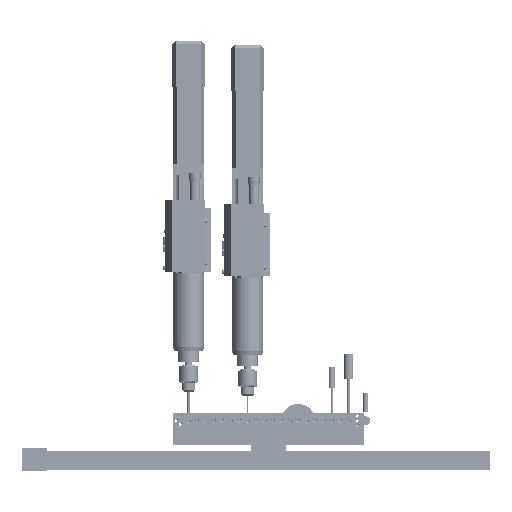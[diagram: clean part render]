
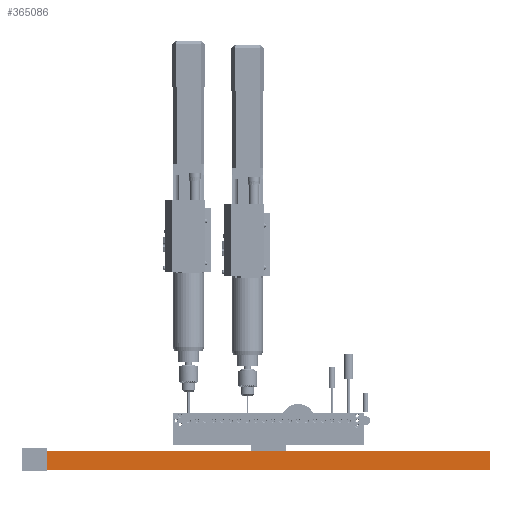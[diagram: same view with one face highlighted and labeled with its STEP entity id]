
A CAD part, front view. The second image highlights one B-rep face of the part: STEP entity #365086.
In plain terms, the highlighted planar face has unit normal (0, -1, 0).
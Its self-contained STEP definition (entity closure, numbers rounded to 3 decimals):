
#364466 = VERTEX_POINT('',#364467);
#364467 = CARTESIAN_POINT('',(619.,-126.6,
    -93.8));
#364476 = PLANE('',#364477);
#364477 = AXIS2_PLACEMENT_3D('',#364478,#364479,#364480);
#364478 = CARTESIAN_POINT('',(619.,-126.6,
    -139.8));
#364479 = DIRECTION('',(1.,0.,0.));
#364480 = DIRECTION('',(0.,0.,1.));
#364488 = PLANE('',#364489);
#364489 = AXIS2_PLACEMENT_3D('',#364490,#364491,#364492);
#364490 = CARTESIAN_POINT('',(619.,-126.6,
    -93.8));
#364491 = DIRECTION('',(0.,0.,1.));
#364492 = DIRECTION('',(1.,0.,0.));
#364500 = EDGE_CURVE('',#364501,#364466,#364503,.T.);
#364501 = VERTEX_POINT('',#364502);
#364502 = CARTESIAN_POINT('',(619.,-126.6,
    -139.8));
#364503 = SURFACE_CURVE('',#364504,(#364508,#364515),.PCURVE_S1.);
#364504 = LINE('',#364505,#364506);
#364505 = CARTESIAN_POINT('',(619.,-126.6,
    -139.8));
#364506 = VECTOR('',#364507,1.);
#364507 = DIRECTION('',(0.,0.,1.));
#364508 = PCURVE('',#364476,#364509);
#364509 = DEFINITIONAL_REPRESENTATION('',(#364510),#364514);
#364510 = LINE('',#364511,#364512);
#364511 = CARTESIAN_POINT('',(0.,0.));
#364512 = VECTOR('',#364513,1.);
#364513 = DIRECTION('',(1.,0.));
#364514 = ( GEOMETRIC_REPRESENTATION_CONTEXT(2) 
PARAMETRIC_REPRESENTATION_CONTEXT() REPRESENTATION_CONTEXT('2D SPACE',''
  ) );
#364515 = PCURVE('',#364516,#364521);
#364516 = PLANE('',#364517);
#364517 = AXIS2_PLACEMENT_3D('',#364518,#364519,#364520);
#364518 = CARTESIAN_POINT('',(619.,-126.6,
    -139.8));
#364519 = DIRECTION('',(0.,1.,0.));
#364520 = DIRECTION('',(0.,0.,1.));
#364521 = DEFINITIONAL_REPRESENTATION('',(#364522),#364526);
#364522 = LINE('',#364523,#364524);
#364523 = CARTESIAN_POINT('',(0.,0.));
#364524 = VECTOR('',#364525,1.);
#364525 = DIRECTION('',(1.,0.));
#364526 = ( GEOMETRIC_REPRESENTATION_CONTEXT(2) 
PARAMETRIC_REPRESENTATION_CONTEXT() REPRESENTATION_CONTEXT('2D SPACE',''
  ) );
#364544 = PLANE('',#364545);
#364545 = AXIS2_PLACEMENT_3D('',#364546,#364547,#364548);
#364546 = CARTESIAN_POINT('',(619.,-126.6,
    -139.8));
#364547 = DIRECTION('',(0.,0.,1.));
#364548 = DIRECTION('',(1.,0.,0.));
#364586 = EDGE_CURVE('',#364466,#364587,#364589,.T.);
#364587 = VERTEX_POINT('',#364588);
#364588 = CARTESIAN_POINT('',(1669.,-126.6,
    -93.8));
#364589 = SURFACE_CURVE('',#364590,(#364594,#364601),.PCURVE_S1.);
#364590 = LINE('',#364591,#364592);
#364591 = CARTESIAN_POINT('',(619.,-126.6,
    -93.8));
#364592 = VECTOR('',#364593,1.);
#364593 = DIRECTION('',(1.,0.,0.));
#364594 = PCURVE('',#364488,#364595);
#364595 = DEFINITIONAL_REPRESENTATION('',(#364596),#364600);
#364596 = LINE('',#364597,#364598);
#364597 = CARTESIAN_POINT('',(0.,0.));
#364598 = VECTOR('',#364599,1.);
#364599 = DIRECTION('',(1.,0.));
#364600 = ( GEOMETRIC_REPRESENTATION_CONTEXT(2) 
PARAMETRIC_REPRESENTATION_CONTEXT() REPRESENTATION_CONTEXT('2D SPACE',''
  ) );
#364601 = PCURVE('',#364516,#364602);
#364602 = DEFINITIONAL_REPRESENTATION('',(#364603),#364607);
#364603 = LINE('',#364604,#364605);
#364604 = CARTESIAN_POINT('',(46.,0.));
#364605 = VECTOR('',#364606,1.);
#364606 = DIRECTION('',(0.,1.));
#364607 = ( GEOMETRIC_REPRESENTATION_CONTEXT(2) 
PARAMETRIC_REPRESENTATION_CONTEXT() REPRESENTATION_CONTEXT('2D SPACE',''
  ) );
#364625 = PLANE('',#364626);
#364626 = AXIS2_PLACEMENT_3D('',#364627,#364628,#364629);
#364627 = CARTESIAN_POINT('',(1669.,-126.6,
    -139.8));
#364628 = DIRECTION('',(1.,0.,0.));
#364629 = DIRECTION('',(0.,0.,1.));
#364974 = EDGE_CURVE('',#364501,#364975,#364977,.T.);
#364975 = VERTEX_POINT('',#364976);
#364976 = CARTESIAN_POINT('',(1669.,-126.6,
    -139.8));
#364977 = SURFACE_CURVE('',#364978,(#364982,#364989),.PCURVE_S1.);
#364978 = LINE('',#364979,#364980);
#364979 = CARTESIAN_POINT('',(619.,-126.6,
    -139.8));
#364980 = VECTOR('',#364981,1.);
#364981 = DIRECTION('',(1.,0.,0.));
#364982 = PCURVE('',#364544,#364983);
#364983 = DEFINITIONAL_REPRESENTATION('',(#364984),#364988);
#364984 = LINE('',#364985,#364986);
#364985 = CARTESIAN_POINT('',(0.,0.));
#364986 = VECTOR('',#364987,1.);
#364987 = DIRECTION('',(1.,0.));
#364988 = ( GEOMETRIC_REPRESENTATION_CONTEXT(2) 
PARAMETRIC_REPRESENTATION_CONTEXT() REPRESENTATION_CONTEXT('2D SPACE',''
  ) );
#364989 = PCURVE('',#364516,#364990);
#364990 = DEFINITIONAL_REPRESENTATION('',(#364991),#364995);
#364991 = LINE('',#364992,#364993);
#364992 = CARTESIAN_POINT('',(0.,0.));
#364993 = VECTOR('',#364994,1.);
#364994 = DIRECTION('',(0.,1.));
#364995 = ( GEOMETRIC_REPRESENTATION_CONTEXT(2) 
PARAMETRIC_REPRESENTATION_CONTEXT() REPRESENTATION_CONTEXT('2D SPACE',''
  ) );
#365086 = ADVANCED_FACE('',(#365087),#364516,.F.);
#365087 = FACE_BOUND('',#365088,.F.);
#365088 = EDGE_LOOP('',(#365089,#365090,#365091,#365092));
#365089 = ORIENTED_EDGE('',*,*,#364974,.F.);
#365090 = ORIENTED_EDGE('',*,*,#364500,.T.);
#365091 = ORIENTED_EDGE('',*,*,#364586,.T.);
#365092 = ORIENTED_EDGE('',*,*,#365093,.F.);
#365093 = EDGE_CURVE('',#364975,#364587,#365094,.T.);
#365094 = SURFACE_CURVE('',#365095,(#365099,#365106),.PCURVE_S1.);
#365095 = LINE('',#365096,#365097);
#365096 = CARTESIAN_POINT('',(1669.,-126.6,
    -139.8));
#365097 = VECTOR('',#365098,1.);
#365098 = DIRECTION('',(0.,0.,1.));
#365099 = PCURVE('',#364516,#365100);
#365100 = DEFINITIONAL_REPRESENTATION('',(#365101),#365105);
#365101 = LINE('',#365102,#365103);
#365102 = CARTESIAN_POINT('',(0.,1050.));
#365103 = VECTOR('',#365104,1.);
#365104 = DIRECTION('',(1.,0.));
#365105 = ( GEOMETRIC_REPRESENTATION_CONTEXT(2) 
PARAMETRIC_REPRESENTATION_CONTEXT() REPRESENTATION_CONTEXT('2D SPACE',''
  ) );
#365106 = PCURVE('',#364625,#365107);
#365107 = DEFINITIONAL_REPRESENTATION('',(#365108),#365112);
#365108 = LINE('',#365109,#365110);
#365109 = CARTESIAN_POINT('',(0.,0.));
#365110 = VECTOR('',#365111,1.);
#365111 = DIRECTION('',(1.,0.));
#365112 = ( GEOMETRIC_REPRESENTATION_CONTEXT(2) 
PARAMETRIC_REPRESENTATION_CONTEXT() REPRESENTATION_CONTEXT('2D SPACE',''
  ) );
